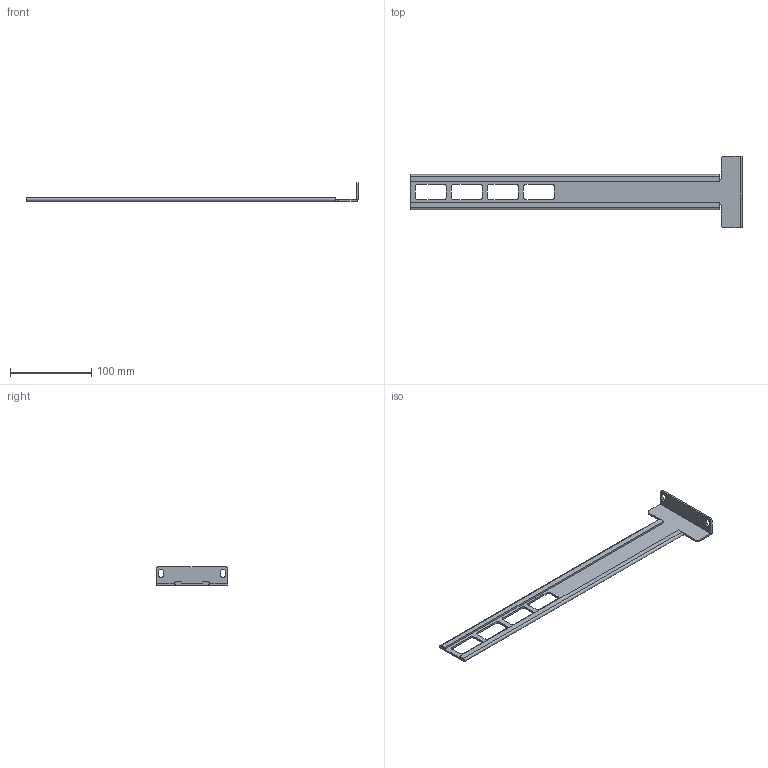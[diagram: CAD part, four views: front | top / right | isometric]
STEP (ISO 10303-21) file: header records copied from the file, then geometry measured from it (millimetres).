
FILE_DESCRIPTION((''),'2;1');
FILE_NAME('2602-335','2016-07-26T',('mboehnle'),('Keithley Instruments'),'CREO PARAMETRIC BY PTC INC, 2014440','CREO PARAMETRIC BY PTC INC, 2014440','');
FILE_SCHEMA(('CONFIG_CONTROL_DESIGN'));
Length unit declared in the file: inch
Products named in the file (1): 2602-335
Bounding box: 408.76 x 88.14 x 23.19 mm (x, y, z)
Volume: 55181.9 mm3; surface area: 40879.6 mm2
Topology: 1 solids, 1 shells, 65 faces, 189 edges, 126 vertices
Faces by surface type: plane 36, cylinder 29
Entity records: 2225 total; most frequent: CARTESIAN_POINT 380, ORIENTED_EDGE 378, DIRECTION 377, EDGE_CURVE 189, VECTOR 131, LINE 131, VERTEX_POINT 126, AXIS2_PLACEMENT_3D 123
